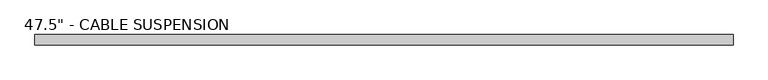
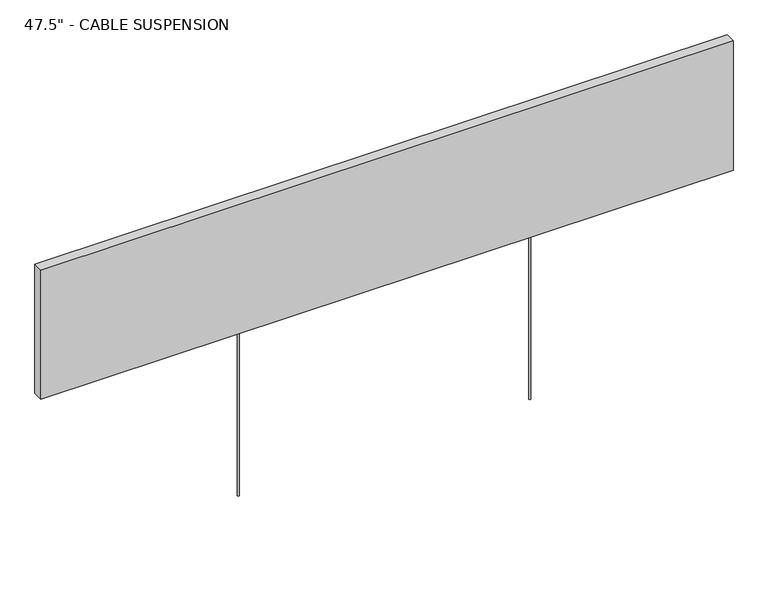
"""IFC4 building model written with IfcOpenShell, lengths in millimetres: proxy geometry."""

from ifc_helpers import new_model, si_unit, point, frame, frame_2d, origin, origin_with_axes, place, context, project, spatial, polyline, circle_curve, trimmed, segment, composite_curve, outline, extrude, source, transform, mapped, element, save


def proxy_e3adda97(model_context):
    return source(origin(), model_context, "Body", "SweptSolid", [
        extrude(outline(composite_curve([segment(trimmed(circle_curve(frame_2d((-254.0, 0.0)), 1.5400297), [point((-255.5400297, 0.0))], [point((-252.4599703, 0.0))], False, "CARTESIAN"), True, "CONTINUOUS"), segment(trimmed(circle_curve(frame_2d((-254.0, 0.0)), 1.5400297), [point((-252.4599703, 0.0))], [point((-255.5400297, 0.0))], False, "CARTESIAN"), True, "CONTINUOUS")], self_intersect=False)), origin_with_axes(), (0.0, 0.0, 1.0), 313.53125),
        extrude(outline(composite_curve([segment(trimmed(circle_curve(frame_2d((254.0, 0.0)), 1.5400297), [point((252.4599703, 0.0))], [point((255.5400297, 0.0))], False, "CARTESIAN"), True, "CONTINUOUS"), segment(trimmed(circle_curve(frame_2d((254.0, 0.0)), 1.5400297), [point((255.5400297, 0.0))], [point((252.4599703, 0.0))], False, "CARTESIAN"), True, "CONTINUOUS")], self_intersect=False)), origin_with_axes(), (0.0, 0.0, 1.0), 313.53125),
        extrude(outline(polyline([(-603.25, -9.017), (-603.25, 9.017), (603.25, 9.017), (603.25, -9.017), (-603.25, -9.017)])), frame((0.0, 0.0, 304.8), z_axis=(0.0, 0.0, 1.0), x_axis=(1.0, 0.0, 0.0)), (0.0, 0.0, 1.0), 238.252),
    ])


if __name__ == "__main__":
    model = new_model("IFC4")
    model_context = context("Model", 3, world=origin())
    ifc_project = project(units=[si_unit("LENGTHUNIT", "METRE", prefix="MILLI")], contexts=[model_context])
    site = spatial("IfcSite", under=ifc_project)
    building = spatial("IfcBuilding", under=site)
    placement = place(None, origin())
    proxy_shape = proxy_e3adda97(model_context)
    element("IfcBuildingElementProxy", 1, Name="SE_TIMBER BAFFLE_SINGLE_FB_TURF : 47.5\" - CABLE SUSPENSION", ObjectType="SE_TIMBER BAFFLE_SINGLE_FB_TURF : 47.5\" - CABLE SUSPENSION", at=placement, inside=building, context=model_context, shape_type="MappedRepresentation", body=[
        mapped(proxy_shape, transform((0.0, 0.0, 0.0), x_axis=(1.0, 0.0, 0.0), y_axis=(0.0, 1.0, 0.0), z_axis=(0.0, 0.0, 1.0))),
    ])
    save(model, "model.ifc")
